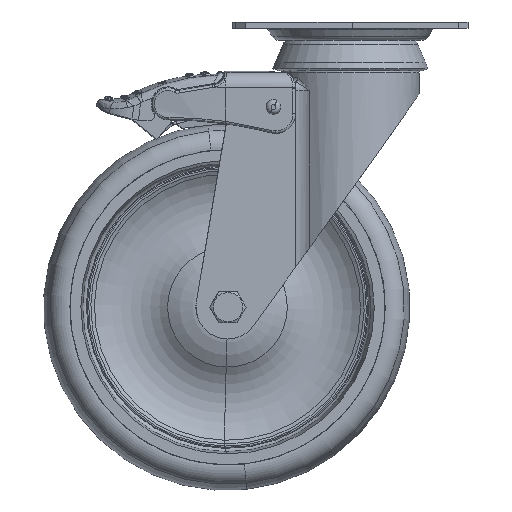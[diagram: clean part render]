
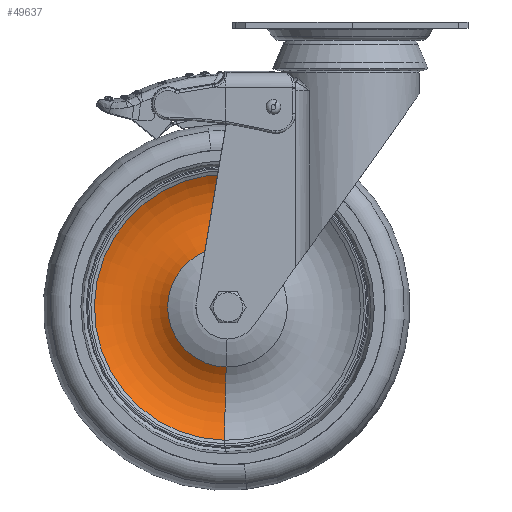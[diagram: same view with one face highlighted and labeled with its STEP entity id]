
A CAD part, top view. The second image highlights one B-rep face of the part: STEP entity #49637.
In plain terms, the highlighted toroidal (fillet/blend) face has major radius 39.626 mm and minor radius 24.071 mm.
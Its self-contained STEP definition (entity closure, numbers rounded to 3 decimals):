
#30448 = CARTESIAN_POINT ( 'NONE',  ( 92.184, -113.379, 97.586 ) ) ;
#30461 = CARTESIAN_POINT ( 'NONE',  ( 92.698, -88.91, 97.576 ) ) ;
#30465 = CIRCLE ( 'NONE', #30526, 54.427 ) ;
#30466 = CARTESIAN_POINT ( 'NONE',  ( 91.549, -143.325, 97.322 ) ) ;
#30478 = CARTESIAN_POINT ( 'NONE',  ( 92.692, -88.91, 97.298 ) ) ;
#30480 = CIRCLE ( 'NONE', #30520, 24.071 ) ;
#30511 = DIRECTION ( 'NONE',  ( -0.021, -1., 0. ) ) ;
#30512 = DIRECTION ( 'NONE',  ( -1., 0.021, 0.021 ) ) ;
#30514 = CARTESIAN_POINT ( 'NONE',  ( 93.924, -49.293, 116.259 ) ) ;
#30515 = DIRECTION ( 'NONE',  ( 0.021, 1., 0. ) ) ;
#30516 = DIRECTION ( 'NONE',  ( -0.021, 0., -1. ) ) ;
#30518 = AXIS2_PLACEMENT_3D ( 'NONE', #30461, #30516, #30515 ) ;
#30520 = AXIS2_PLACEMENT_3D ( 'NONE', #30514, #30512, #30511 ) ;
#30522 = DIRECTION ( 'NONE',  ( 0.021, 1., 0. ) ) ;
#30523 = DIRECTION ( 'NONE',  ( -0.021, 0., -1. ) ) ;
#30524 = CIRCLE ( 'NONE', #30518, 24.475 ) ;
#30525 = CARTESIAN_POINT ( 'NONE',  ( 93.212, -64.44, 97.565 ) ) ;
#30526 = AXIS2_PLACEMENT_3D ( 'NONE', #30478, #30523, #30522 ) ;
#30543 = DIRECTION ( 'NONE',  ( 0.021, 1., 0. ) ) ;
#30544 = DIRECTION ( 'NONE',  ( 1., -0.021, -0.021 ) ) ;
#30545 = AXIS2_PLACEMENT_3D ( 'NONE', #30548, #30544, #30543 ) ;
#30546 = CIRCLE ( 'NONE', #30545, 24.071 ) ;
#30547 = DIRECTION ( 'NONE',  ( 0.021, 1., 0. ) ) ;
#30548 = CARTESIAN_POINT ( 'NONE',  ( 92.259, -128.527, 116.294 ) ) ;
#30553 = AXIS2_PLACEMENT_3D ( 'NONE', #30565, #30564, #30547 ) ;
#30554 = FACE_OUTER_BOUND ( 'NONE', #49630, .T. ) ;
#30555 = TOROIDAL_SURFACE ( 'NONE', #30553, 39.626, 24.071 ) ;
#30561 = CARTESIAN_POINT ( 'NONE',  ( 93.836, -34.495, 97.274 ) ) ;
#30564 = DIRECTION ( 'NONE',  ( -0.021, 0., -1. ) ) ;
#30565 = CARTESIAN_POINT ( 'NONE',  ( 93.091, -88.91, 116.276 ) ) ;
#49574 = VERTEX_POINT ( 'NONE', #30448 ) ;
#49598 = ORIENTED_EDGE ( 'NONE', *, *, #49620, .F. ) ;
#49612 = VERTEX_POINT ( 'NONE', #30466 ) ;
#49616 = EDGE_CURVE ( 'NONE', #49612, #49638, #30465, .T. ) ;
#49617 = ORIENTED_EDGE ( 'NONE', *, *, #49618, .T. ) ;
#49618 = EDGE_CURVE ( 'NONE', #49574, #49629, #30524, .T. ) ;
#49620 = EDGE_CURVE ( 'NONE', #49638, #49629, #30480, .T. ) ;
#49629 = VERTEX_POINT ( 'NONE', #30525 ) ;
#49630 = EDGE_LOOP ( 'NONE', ( #49631, #49639, #49617, #49598 ) ) ;
#49631 = ORIENTED_EDGE ( 'NONE', *, *, #49616, .F. ) ;
#49637 = ADVANCED_FACE ( 'NONE', ( #30554 ), #30555, .F. ) ;
#49638 = VERTEX_POINT ( 'NONE', #30561 ) ;
#49639 = ORIENTED_EDGE ( 'NONE', *, *, #49640, .T. ) ;
#49640 = EDGE_CURVE ( 'NONE', #49612, #49574, #30546, .T. ) ;
